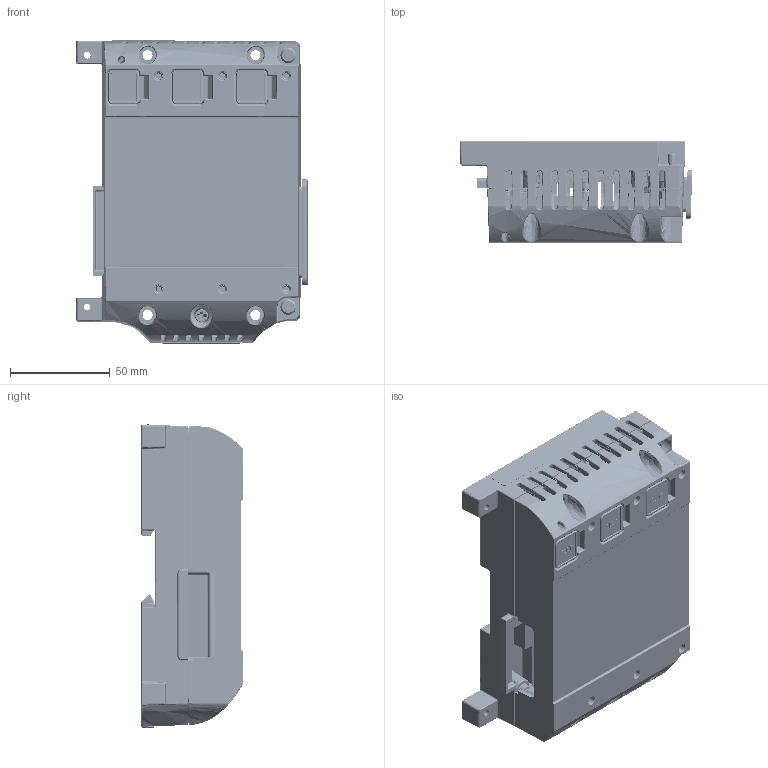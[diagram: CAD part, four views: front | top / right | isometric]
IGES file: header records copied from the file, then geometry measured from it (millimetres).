
Start section: C
Global section: file name: GEXRACK2.igs; native system: By Siemens PLM Incorporated; preprocessor: XPlus GENERIC/IGES 21.0.46; author: Author; organization: Title; date: 20200212.092708; units: millimetre
Bounding box: 116.46 x 50.76 x 151.74 mm (x, y, z)
Surface area: 154474.4 mm2 (no closed solid volume)
Topology: 0 solids, 0 shells, 4873 faces, 26886 edges, 26778 vertices
Faces by surface type: bspline 4873
